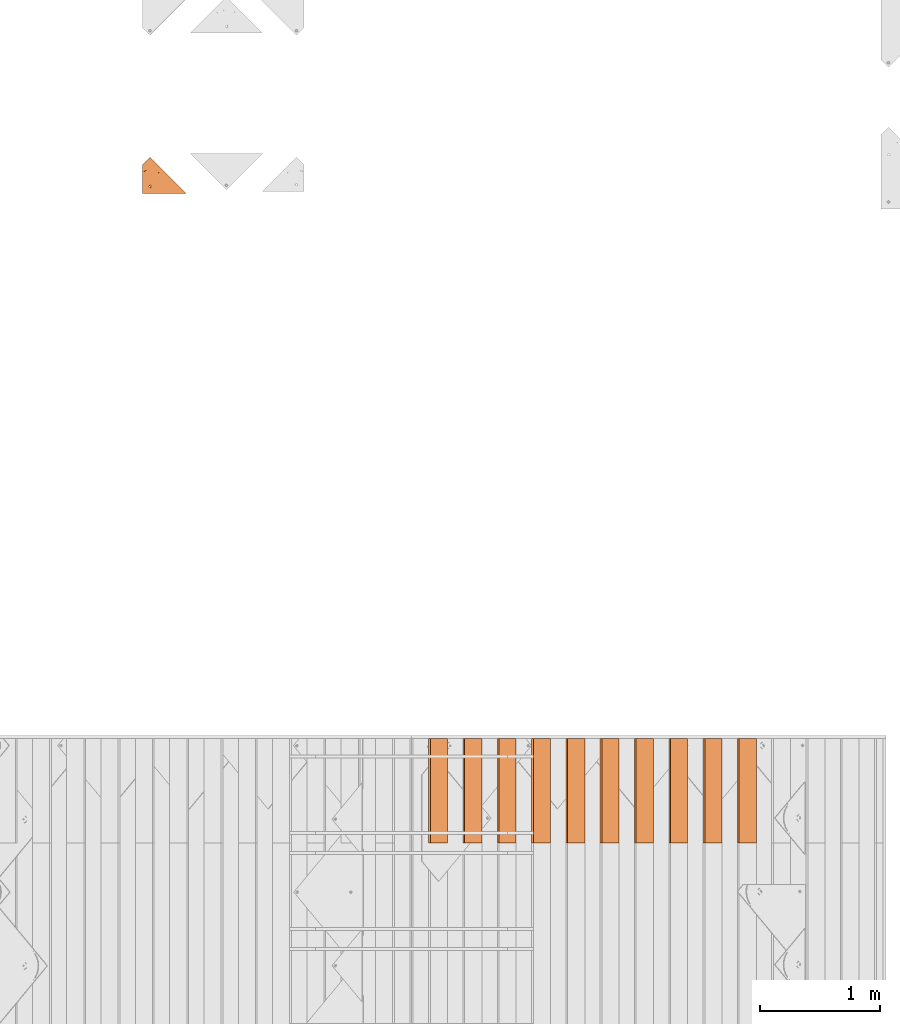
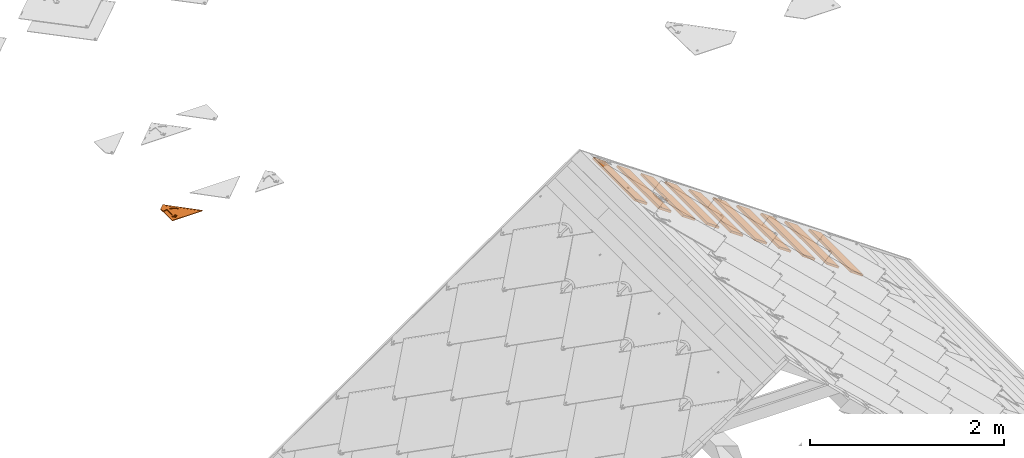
# One storey, part 109 of 133: 11 proxies, 1 element without a shape of its own.
"""IFC2X3 building model written with IfcOpenShell, lengths in millimetres."""

from ifc_helpers import new_model, entity, si_unit, converted_unit, derived_unit, direction, frame, frame_2d, origin, place, context, subcontext, project, spatial, rectangle, extrude, faceted_brep, source, transform, mapped, material, material_list, type_object, type_shapes, element, aggregate, save


model = new_model("IFC2X3")

# Units and contexts
model_context = context("Model", 3, precision=0.01, world=origin(), true_north=direction((6.12303176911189e-17, 1.0)))
body_context = subcontext(model_context, "Body", "Model", "MODEL_VIEW")
ifc_project = project(units=[si_unit("LENGTHUNIT", "METRE", prefix="MILLI"), si_unit("AREAUNIT", "SQUARE_METRE"), si_unit("VOLUMEUNIT", "CUBIC_METRE"), converted_unit("PLANEANGLEUNIT", "DEGREE", entity("IfcRatioMeasure", 0.0174532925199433), si_unit("PLANEANGLEUNIT", "RADIAN"), dimensions=[0, 0, 0, 0, 0, 0, 0]), si_unit("MASSUNIT", "GRAM", prefix="KILO"), derived_unit("MASSDENSITYUNIT", [(si_unit("MASSUNIT", "GRAM", prefix="KILO"), 1), (si_unit("LENGTHUNIT", "METRE"), -3)]), si_unit("TIMEUNIT", "SECOND"), si_unit("FREQUENCYUNIT", "HERTZ"), si_unit("THERMODYNAMICTEMPERATUREUNIT", "DEGREE_CELSIUS"), derived_unit("THERMALTRANSMITTANCEUNIT", [(si_unit("MASSUNIT", "GRAM", prefix="KILO"), 1), (si_unit("THERMODYNAMICTEMPERATUREUNIT", "KELVIN"), -1), (si_unit("TIMEUNIT", "SECOND"), -3)]), derived_unit("VOLUMETRICFLOWRATEUNIT", [(si_unit("LENGTHUNIT", "METRE"), 3), (si_unit("TIMEUNIT", "SECOND"), -1)]), si_unit("ELECTRICCURRENTUNIT", "AMPERE"), si_unit("ELECTRICVOLTAGEUNIT", "VOLT"), si_unit("POWERUNIT", "WATT"), si_unit("FORCEUNIT", "NEWTON", prefix="KILO"), si_unit("ILLUMINANCEUNIT", "LUX"), si_unit("LUMINOUSFLUXUNIT", "LUMEN"), si_unit("LUMINOUSINTENSITYUNIT", "CANDELA"), derived_unit("USERDEFINED", [(si_unit("MASSUNIT", "GRAM", prefix="KILO"), -1), (si_unit("LENGTHUNIT", "METRE"), -2), (si_unit("TIMEUNIT", "SECOND"), 3), (si_unit("LUMINOUSFLUXUNIT", "LUMEN"), 1)]), derived_unit("LINEARVELOCITYUNIT", [(si_unit("LENGTHUNIT", "METRE"), 1), (si_unit("TIMEUNIT", "SECOND"), -1)]), si_unit("PRESSUREUNIT", "PASCAL"), derived_unit("USERDEFINED", [(si_unit("LENGTHUNIT", "METRE"), -2), (si_unit("MASSUNIT", "GRAM", prefix="KILO"), 1), (si_unit("TIMEUNIT", "SECOND"), -2)])], contexts=[model_context])

# Site, building, storey
site_placement = place(None, origin())
site = spatial("IfcSite", under=ifc_project, at=site_placement, Name="Default", CompositionType="ELEMENT")
building_placement = place(site_placement, origin())
building = spatial("IfcBuilding", under=site, at=building_placement, CompositionType="ELEMENT")
storey_placement = place(building_placement, origin())
storey = spatial("IfcBuildingStorey", under=building, at=storey_placement, Name="Level 1", CompositionType="ELEMENT", Elevation=0.0)

# Assembly, proxies
assembly_placement = place(storey_placement, origin())
assembly = element("IfcElementAssembly", 1, at=assembly_placement, inside=storey, Name="Structural Framing Assembly:Roof Construction Assembly", ObjectType="Structural Framing Assembly:Roof Construction Assembly", AssemblyPlace="NOTDEFINED", PredefinedType="USERDEFINED")
ifc_material_1 = material(Name="Wood - Generic - Wood For Showcase")
building_element_proxy_type_1 = type_object("IfcBuildingElementProxyType", Name="Structural Framing 15", PredefinedType="NOTDEFINED", material=ifc_material_1)
shared_shape_1 = source(origin(), body_context, "Body", "SweptSolid", [
    extrude(rectangle(XDim=24.9999999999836, YDim=174.344679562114, at=frame_2d((2.98427949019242e-13, -4.2632564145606e-14), x_axis=(1.0, 0.0))), frame((1285.3560130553, 3055.55080214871, 2760.23940055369), z_axis=(0.0, 1.0, 0.0), x_axis=(0.573576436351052, 0.0, 0.819152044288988)), (0.0, 0.0, 1.0), 870.000000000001),
])
type_shapes(building_element_proxy_type_1, [shared_shape_1])
proxy_1_placement = place(assembly_placement, frame((142.814800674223, 0.0, -100.0)))
proxy_1 = element("IfcBuildingElementProxy", 2, at=proxy_1_placement, type_object=building_element_proxy_type_1, material=ifc_material_1, Name="Structural Framing 164:Structural Framing 15", ObjectType="Structural Framing 164:Structural Framing 15", context=body_context, shape_type="MappedRepresentation", body=[
    mapped(shared_shape_1, transform((0.0, 0.0, 0.0), scale=1.0)),
])
building_element_proxy_type_2 = type_object("IfcBuildingElementProxyType", Name="Structural Framing 15", PredefinedType="NOTDEFINED", material=ifc_material_1)
shared_shape_2 = source(origin(), body_context, "Body", "SweptSolid", [
    extrude(rectangle(XDim=24.9999999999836, YDim=174.344679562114, at=frame_2d((2.98427949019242e-13, -4.2632564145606e-14), x_axis=(1.0, 0.0))), frame((1285.3560130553, 3055.55080214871, 2760.23940055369), z_axis=(0.0, 1.0, 0.0), x_axis=(0.573576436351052, 0.0, 0.819152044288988)), (0.0, 0.0, 1.0), 870.000000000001),
])
type_shapes(building_element_proxy_type_2, [shared_shape_2])
proxy_2_placement = place(assembly_placement, frame((428.444402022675, 0.0, -300.0)))
proxy_2 = element("IfcBuildingElementProxy", 3, at=proxy_2_placement, type_object=building_element_proxy_type_2, material=ifc_material_1, Name="Structural Framing 174:Structural Framing 15", ObjectType="Structural Framing 174:Structural Framing 15", context=body_context, shape_type="MappedRepresentation", body=[
    mapped(shared_shape_2, transform((0.0, 0.0, 0.0), scale=1.0)),
])
building_element_proxy_type_3 = type_object("IfcBuildingElementProxyType", Name="Structural Framing 15", PredefinedType="NOTDEFINED", material=ifc_material_1)
shared_shape_3 = source(origin(), body_context, "Body", "SweptSolid", [
    extrude(rectangle(XDim=24.9999999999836, YDim=174.344679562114, at=frame_2d((2.98427949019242e-13, -4.2632564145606e-14), x_axis=(1.0, 0.0))), frame((1285.3560130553, 3055.55080214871, 2760.23940055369), z_axis=(0.0, 1.0, 0.0), x_axis=(0.573576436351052, 0.0, 0.819152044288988)), (0.0, 0.0, 1.0), 870.000000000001),
])
type_shapes(building_element_proxy_type_3, [shared_shape_3])
proxy_3_placement = place(assembly_placement, frame((714.074003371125, 0.0, -500.0)))
proxy_3 = element("IfcBuildingElementProxy", 4, at=proxy_3_placement, type_object=building_element_proxy_type_3, material=ifc_material_1, Name="Structural Framing 184:Structural Framing 15", ObjectType="Structural Framing 184:Structural Framing 15", context=body_context, shape_type="MappedRepresentation", body=[
    mapped(shared_shape_3, transform((0.0, 0.0, 0.0), scale=1.0)),
])
building_element_proxy_type_4 = type_object("IfcBuildingElementProxyType", Name="Structural Framing 15", PredefinedType="NOTDEFINED", material=ifc_material_1)
shared_shape_4 = source(origin(), body_context, "Body", "SweptSolid", [
    extrude(rectangle(XDim=24.9999999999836, YDim=174.344679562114, at=frame_2d((2.98427949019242e-13, -4.2632564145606e-14), x_axis=(1.0, 0.0))), frame((1285.3560130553, 3055.55080214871, 2760.23940055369), z_axis=(0.0, 1.0, 0.0), x_axis=(0.573576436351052, 0.0, 0.819152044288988)), (0.0, 0.0, 1.0), 870.000000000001),
])
type_shapes(building_element_proxy_type_4, [shared_shape_4])
proxy_4_placement = place(assembly_placement, frame((999.703604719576, 0.0, -700.0)))
proxy_4 = element("IfcBuildingElementProxy", 5, at=proxy_4_placement, type_object=building_element_proxy_type_4, material=ifc_material_1, Name="Structural Framing 194:Structural Framing 15", ObjectType="Structural Framing 194:Structural Framing 15", context=body_context, shape_type="MappedRepresentation", body=[
    mapped(shared_shape_4, transform((0.0, 0.0, 0.0), scale=1.0)),
])
building_element_proxy_type_5 = type_object("IfcBuildingElementProxyType", Name="Structural Framing 15", PredefinedType="NOTDEFINED", material=ifc_material_1)
shared_shape_5 = source(origin(), body_context, "Body", "SweptSolid", [
    extrude(rectangle(XDim=24.9999999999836, YDim=174.344679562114, at=frame_2d((2.98427949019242e-13, -4.2632564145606e-14), x_axis=(1.0, 0.0))), frame((1285.3560130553, 3055.55080214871, 2760.23940055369), z_axis=(0.0, 1.0, 0.0), x_axis=(0.573576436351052, 0.0, 0.819152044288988)), (0.0, 0.0, 1.0), 870.000000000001),
])
type_shapes(building_element_proxy_type_5, [shared_shape_5])
proxy_5_placement = place(assembly_placement, frame((1285.33320606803, 0.0, -900.0)))
proxy_5 = element("IfcBuildingElementProxy", 6, at=proxy_5_placement, type_object=building_element_proxy_type_5, material=ifc_material_1, Name="Structural Framing 204:Structural Framing 15", ObjectType="Structural Framing 204:Structural Framing 15", context=body_context, shape_type="MappedRepresentation", body=[
    mapped(shared_shape_5, transform((0.0, 0.0, 0.0), scale=1.0)),
])
building_element_proxy_type_6 = type_object("IfcBuildingElementProxyType", Name="Structural Framing 15", PredefinedType="NOTDEFINED", material=ifc_material_1)
shared_shape_6 = source(origin(), body_context, "Body", "SweptSolid", [
    extrude(rectangle(XDim=24.9999999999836, YDim=174.344679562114, at=frame_2d((2.98427949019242e-13, -4.2632564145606e-14), x_axis=(1.0, 0.0))), frame((1285.3560130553, 3055.55080214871, 2760.23940055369), z_axis=(0.0, 1.0, 0.0), x_axis=(0.573576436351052, 0.0, 0.819152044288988)), (0.0, 0.0, 1.0), 870.000000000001),
])
type_shapes(building_element_proxy_type_6, [shared_shape_6])
proxy_6_placement = place(assembly_placement, frame((1570.96280741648, 0.0, -1100.0)))
proxy_6 = element("IfcBuildingElementProxy", 7, at=proxy_6_placement, type_object=building_element_proxy_type_6, material=ifc_material_1, Name="Structural Framing 214:Structural Framing 15", ObjectType="Structural Framing 214:Structural Framing 15", context=body_context, shape_type="MappedRepresentation", body=[
    mapped(shared_shape_6, transform((0.0, 0.0, 0.0), scale=1.0)),
])
building_element_proxy_type_7 = type_object("IfcBuildingElementProxyType", Name="Structural Framing 15", PredefinedType="NOTDEFINED", material=ifc_material_1)
shared_shape_7 = source(origin(), body_context, "Body", "SweptSolid", [
    extrude(rectangle(XDim=24.9999999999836, YDim=174.344679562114, at=frame_2d((2.98427949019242e-13, -4.2632564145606e-14), x_axis=(1.0, 0.0))), frame((1285.3560130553, 3055.55080214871, 2760.23940055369), z_axis=(0.0, 1.0, 0.0), x_axis=(0.573576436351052, 0.0, 0.819152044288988)), (0.0, 0.0, 1.0), 870.000000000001),
])
type_shapes(building_element_proxy_type_7, [shared_shape_7])
proxy_7_placement = place(assembly_placement, frame((1856.59240876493, 0.0, -1300.0)))
proxy_7 = element("IfcBuildingElementProxy", 8, at=proxy_7_placement, type_object=building_element_proxy_type_7, material=ifc_material_1, Name="Structural Framing 224:Structural Framing 15", ObjectType="Structural Framing 224:Structural Framing 15", context=body_context, shape_type="MappedRepresentation", body=[
    mapped(shared_shape_7, transform((0.0, 0.0, 0.0), scale=1.0)),
])
building_element_proxy_type_8 = type_object("IfcBuildingElementProxyType", Name="Structural Framing 15", PredefinedType="NOTDEFINED", material=ifc_material_1)
shared_shape_8 = source(origin(), body_context, "Body", "SweptSolid", [
    extrude(rectangle(XDim=24.9999999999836, YDim=174.344679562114, at=frame_2d((2.98427949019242e-13, -4.2632564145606e-14), x_axis=(1.0, 0.0))), frame((1285.3560130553, 3055.55080214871, 2760.23940055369), z_axis=(0.0, 1.0, 0.0), x_axis=(0.573576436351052, 0.0, 0.819152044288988)), (0.0, 0.0, 1.0), 870.000000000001),
])
type_shapes(building_element_proxy_type_8, [shared_shape_8])
proxy_8_placement = place(assembly_placement, frame((2142.22201011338, 0.0, -1500.0)))
proxy_8 = element("IfcBuildingElementProxy", 9, at=proxy_8_placement, type_object=building_element_proxy_type_8, material=ifc_material_1, Name="Structural Framing 234:Structural Framing 15", ObjectType="Structural Framing 234:Structural Framing 15", context=body_context, shape_type="MappedRepresentation", body=[
    mapped(shared_shape_8, transform((0.0, 0.0, 0.0), scale=1.0)),
])
building_element_proxy_type_9 = type_object("IfcBuildingElementProxyType", Name="Structural Framing 15", PredefinedType="NOTDEFINED", material=ifc_material_1)
shared_shape_9 = source(origin(), body_context, "Body", "SweptSolid", [
    extrude(rectangle(XDim=24.9999999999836, YDim=174.344679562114, at=frame_2d((2.98427949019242e-13, -4.2632564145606e-14), x_axis=(1.0, 0.0))), frame((1285.3560130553, 3055.55080214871, 2760.23940055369), z_axis=(0.0, 1.0, 0.0), x_axis=(0.573576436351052, 0.0, 0.819152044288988)), (0.0, 0.0, 1.0), 870.000000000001),
])
type_shapes(building_element_proxy_type_9, [shared_shape_9])
proxy_9_placement = place(assembly_placement, frame((2427.85161146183, 0.0, -1700.0)))
proxy_9 = element("IfcBuildingElementProxy", 10, at=proxy_9_placement, type_object=building_element_proxy_type_9, material=ifc_material_1, Name="Structural Framing 244:Structural Framing 15", ObjectType="Structural Framing 244:Structural Framing 15", context=body_context, shape_type="MappedRepresentation", body=[
    mapped(shared_shape_9, transform((0.0, 0.0, 0.0), scale=1.0)),
])
building_element_proxy_type_10 = type_object("IfcBuildingElementProxyType", Name="Structural Framing 15", PredefinedType="NOTDEFINED", material=ifc_material_1)
shared_shape_10 = source(origin(), body_context, "Body", "SweptSolid", [
    extrude(rectangle(XDim=24.9999999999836, YDim=174.344679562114, at=frame_2d((2.98427949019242e-13, -4.2632564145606e-14), x_axis=(1.0, 0.0))), frame((1285.3560130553, 3055.55080214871, 2760.23940055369), z_axis=(0.0, 1.0, 0.0), x_axis=(0.573576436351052, 0.0, 0.819152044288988)), (0.0, 0.0, 1.0), 870.000000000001),
])
type_shapes(building_element_proxy_type_10, [shared_shape_10])
proxy_10_placement = place(assembly_placement, frame((2713.48121281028, 0.0, -1900.0)))
proxy_10 = element("IfcBuildingElementProxy", 11, at=proxy_10_placement, type_object=building_element_proxy_type_10, material=ifc_material_1, Name="Structural Framing 254:Structural Framing 15", ObjectType="Structural Framing 254:Structural Framing 15", context=body_context, shape_type="MappedRepresentation", body=[
    mapped(shared_shape_10, transform((0.0, 0.0, 0.0), scale=1.0)),
])
aggregate(assembly, [proxy_1, proxy_2, proxy_3, proxy_4, proxy_5, proxy_6, proxy_7, proxy_8, proxy_9, proxy_10])

# Proxy
ifc_material_2 = material(Name="Rubber - Sunstyle - Black")
ifc_material_3 = material(Name="Glass - Sunstyle - Tainted Black")
ifc_material_list_1 = material_list([ifc_material_2, ifc_material_3])
ifc_material_list_2 = material_list([ifc_material_2, ifc_material_3])
building_element_proxy_type_11 = type_object("IfcBuildingElementProxyType", Name="Corner Bottom Small Left - Black", PredefinedType="NOTDEFINED", material=ifc_material_list_2)
shared_shape_11 = source(origin(), body_context, "Body", "Brep", [
    faceted_brep([(330.847757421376, 18.4932261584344, 12.2894055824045), (339.332443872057, 26.9779126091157, 12.1473081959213), (339.332443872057, 27.0030303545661, 13.6470978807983), (330.847757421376, 18.5183439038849, 13.7891952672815), (61.6993486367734, 287.566165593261, 7.7831033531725), (10.0799586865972, 235.961249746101, 8.64735729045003), (1.59527223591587, 244.445936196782, 8.50525990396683), (61.6993486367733, 304.533159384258, 7.49894842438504), (61.6993486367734, 304.558277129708, 8.9987381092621), (1.59527223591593, 244.471053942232, 10.0050495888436), (10.0799586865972, 235.986367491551, 10.147146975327), (61.6993486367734, 287.591283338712, 9.2828930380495)], [[[0, 1, 2, 3]], [[1, 0, 4, 5, 6, 7]], [[2, 1, 7, 8]], [[3, 2, 8, 9, 10, 11]], [[0, 3, 11, 4]], [[5, 10, 9, 6]], [[8, 7, 6, 9]], [[4, 11, 10, 5]]]),
    faceted_brep([(61.6990261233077, 46.946835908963, 21.8142807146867), (61.6990261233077, 51.4462045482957, 21.7389274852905), (53.0953219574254, 50.5101071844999, 21.7546047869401), (70.3027302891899, 50.5101071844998, 21.7546047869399), (68.3392547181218, 55.2794047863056, 21.6747309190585), (73.8665012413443, 59.1126050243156, 21.6105343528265), (68.3392547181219, 62.9458052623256, 21.5463377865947), (70.30273028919, 67.7151028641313, 21.4664639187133), (61.6990261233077, 66.7790055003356, 21.4821412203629), (61.6990261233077, 71.2783741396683, 21.4067879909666), (53.0953219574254, 67.7151028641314, 21.4664639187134), (55.0587975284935, 62.9458052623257, 21.5463377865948), (49.5315510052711, 59.1126050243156, 21.6105343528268), (55.0587975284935, 55.2794047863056, 21.6747309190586), (55.0587978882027, 62.6778824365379, 5.54858115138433), (61.6990261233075, 66.5110824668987, 5.48438458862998), (55.0587978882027, 55.0114823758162, 5.6769742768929), (61.6990261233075, 51.1782823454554, 5.74117083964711), (68.3392543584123, 55.0114823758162, 5.67697427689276), (68.3392543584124, 62.6778824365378, 5.5485811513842), (53.0953219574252, 50.2421845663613, 5.75684814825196), (61.6990261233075, 46.6789132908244, 5.81652407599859), (49.5315510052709, 58.844682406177, 5.61277771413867), (53.0953219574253, 67.4471802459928, 5.4687072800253), (61.6990261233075, 71.0104515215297, 5.4090313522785), (70.3027302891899, 67.4471802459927, 5.46870728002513), (73.8665012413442, 58.844682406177, 5.61277771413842), (70.3027302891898, 50.2421845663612, 5.75684814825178)], [[[0, 1, 2]], [[1, 0, 3]], [[3, 4, 1]], [[4, 3, 5]], [[6, 4, 5]], [[5, 7, 6]], [[7, 8, 6]], [[8, 7, 9]], [[8, 9, 10]], [[10, 11, 8]], [[12, 11, 10]], [[2, 13, 12]], [[12, 13, 11]], [[13, 2, 1]], [[8, 11, 14, 15]], [[11, 13, 16, 14]], [[13, 1, 17, 16]], [[1, 4, 18, 17]], [[4, 6, 19, 18]], [[6, 8, 15, 19]], [[20, 17, 21]], [[17, 20, 16]], [[22, 16, 20]], [[14, 16, 22]], [[23, 14, 22]], [[15, 14, 23]], [[23, 24, 15]], [[24, 25, 15]], [[19, 15, 25]], [[19, 25, 26]], [[26, 18, 19]], [[26, 27, 18]], [[17, 18, 27]], [[27, 21, 17]], [[24, 23, 10, 9]], [[10, 23, 22, 12]], [[20, 21, 0, 2]], [[20, 2, 12, 22]], [[21, 27, 3, 0]], [[3, 27, 26, 5]], [[25, 24, 9, 7]], [[25, 7, 5, 26]]]),
    faceted_brep([(1.59527223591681, 244.445936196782, 8.50525990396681), (58.5931975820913, 70.7020897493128, 11.4150370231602), (61.6990261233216, 71.1109225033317, 11.4081900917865), (55.6990261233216, 69.5034527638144, 11.4351112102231), (64.8048546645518, 70.7020897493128, 11.4150370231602), (53.213744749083, 67.596696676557, 11.4670446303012), (51.3067212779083, 65.1117637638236, 11.5086610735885), (1.5952722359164, 0.125588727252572, 12.5970178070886), (67.6990261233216, 69.5034527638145, 11.4351112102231), (61.6993486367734, 304.533159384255, 7.49894842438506), (50.1079162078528, 62.2179980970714, 11.5571244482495), (49.6990261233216, 59.1126050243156, 11.6091320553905), (50.1079162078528, 56.0072119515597, 11.6611396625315), (51.3067212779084, 53.1134462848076, 11.7096030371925), (53.2137447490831, 50.6285133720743, 11.7512194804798), (55.6990261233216, 48.7217572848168, 11.7831529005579), (58.5931975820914, 47.5231202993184, 11.8032270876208), (61.6990261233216, 47.1142875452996, 11.8100740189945), (64.8048546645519, 47.5231202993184, 11.8032270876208), (67.6990261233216, 48.7217572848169, 11.7831529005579), (366.192299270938, 0.125588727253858, 12.5970178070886), (72.0913309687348, 65.1117637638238, 11.5086610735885), (73.2901360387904, 62.2179980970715, 11.5571244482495), (73.6990261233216, 59.1126050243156, 11.6091320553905), (70.1843074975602, 50.6285133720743, 11.7512194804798), (72.0913309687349, 53.1134462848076, 11.7096030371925), (73.2901360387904, 56.0072119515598, 11.6611396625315), (70.1843074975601, 67.596696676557, 11.4670446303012), (1.5952722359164, 0.0, 5.09806938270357), (55.6990261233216, 48.5961685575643, 4.2842044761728), (58.5931975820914, 47.3975315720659, 4.30427866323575), (53.2137447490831, 50.5029246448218, 4.25227105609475), (61.6990261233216, 46.9886988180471, 4.3111255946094), (51.3067212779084, 52.9878575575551, 4.21065461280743), (50.1079162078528, 55.8816232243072, 4.16219123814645), (49.6990261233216, 58.9870162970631, 4.11018363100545), (50.1079162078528, 62.0924093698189, 4.05817602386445), (64.8048546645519, 47.3975315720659, 4.30427866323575), (67.6990261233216, 48.5961685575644, 4.2842044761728), (366.192299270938, 0.0, 5.09806938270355), (51.3067212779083, 64.9861750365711, 4.00971264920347), (1.59527223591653, 244.320347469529, 1.00631147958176), (53.213744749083, 67.4711079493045, 3.96809620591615), (55.6990261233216, 69.3778640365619, 3.93616278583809), (58.5931975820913, 70.5765010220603, 3.91608859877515), (61.6990261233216, 70.9853337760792, 3.90924166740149), (64.8048546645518, 70.5765010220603, 3.91608859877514), (67.6990261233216, 69.377864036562, 3.93616278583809), (61.6993486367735, 304.407570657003, 0.0), (72.0913309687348, 64.9861750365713, 4.00971264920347), (70.1843074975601, 67.4711079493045, 3.96809620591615), (70.1843074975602, 50.5029246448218, 4.25227105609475), (72.0913309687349, 52.9878575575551, 4.21065461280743), (73.2901360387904, 55.8816232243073, 4.16219123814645), (73.6990261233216, 58.9870162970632, 4.11018363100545), (73.2901360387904, 62.092409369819, 4.05817602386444)], [[[0, 1, 2]], [[1, 0, 3]], [[0, 2, 4]], [[5, 3, 0]], [[6, 5, 0]], [[6, 0, 7]], [[8, 0, 4]], [[0, 8, 9]], [[7, 10, 6]], [[11, 10, 7]], [[12, 11, 7]], [[13, 12, 7]], [[7, 14, 13]], [[14, 7, 15]], [[16, 15, 7]], [[7, 17, 16]], [[17, 7, 18]], [[19, 18, 7]], [[20, 19, 7]], [[9, 21, 20]], [[20, 21, 22]], [[20, 22, 23]], [[19, 20, 24]], [[25, 24, 20]], [[26, 25, 20]], [[26, 20, 23]], [[9, 8, 27]], [[27, 21, 9]], [[28, 29, 30]], [[29, 28, 31]], [[28, 30, 32]], [[33, 31, 28]], [[34, 33, 28]], [[35, 34, 28]], [[28, 36, 35]], [[37, 28, 32]], [[37, 38, 28]], [[28, 38, 39]], [[36, 28, 40]], [[28, 41, 40]], [[42, 40, 41]], [[41, 43, 42]], [[43, 41, 44]], [[45, 44, 41]], [[41, 46, 45]], [[41, 47, 46]], [[47, 41, 48]], [[49, 48, 39]], [[50, 47, 48]], [[48, 49, 50]], [[38, 51, 39]], [[51, 52, 39]], [[52, 53, 39]], [[39, 53, 54]], [[55, 39, 54]], [[49, 39, 55]], [[11, 35, 36, 10]], [[10, 36, 40, 6]], [[3, 5, 42, 43]], [[40, 42, 5, 6]], [[1, 3, 43, 44]], [[45, 2, 1, 44]], [[4, 46, 47, 8]], [[8, 47, 50, 27]], [[22, 21, 49, 55]], [[50, 49, 21, 27]], [[23, 22, 55, 54]], [[4, 2, 45, 46]], [[23, 54, 53, 26]], [[26, 53, 52, 25]], [[19, 24, 51, 38]], [[52, 51, 24, 25]], [[18, 19, 38, 37]], [[32, 17, 18, 37]], [[16, 30, 29, 15]], [[15, 29, 31, 14]], [[12, 13, 33, 34]], [[31, 33, 13, 14]], [[11, 12, 34, 35]], [[16, 17, 32, 30]], [[0, 9, 48, 41]], [[7, 0, 41, 28]], [[20, 7, 28, 39]], [[9, 20, 39, 48]]]),
    faceted_brep([(1.59527223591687, 209.239382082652, 19.0962843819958), (1.59527223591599, 182.513149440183, 19.5438822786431), (24.4390403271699, 190.969673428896, 19.4022565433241), (34.6448586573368, 218.551914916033, 18.9403226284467), (48.3990261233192, 195.36105911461, 19.3287117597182), (68.9162632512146, 220.671424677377, 18.9048261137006), (74.999026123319, 195.361059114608, 19.3287117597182), (74.99902612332, 85.4841763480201, 21.1688761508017), (48.3990261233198, 85.4841763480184, 21.1688761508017), (61.6990261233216, 71.2783741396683, 21.4067879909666), (58.5931975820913, 70.8695413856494, 21.4136349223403), (55.6990261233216, 69.670904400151, 21.4337091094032), (42.9949199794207, 81.9461281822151, 21.2281296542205), (53.213744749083, 67.7641483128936, 21.4656425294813), (38.4943757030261, 77.3131226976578, 21.3057209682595), (51.3067212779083, 65.2792154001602, 21.5072589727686), (35.1148065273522, 71.8089720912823, 21.397901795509), (50.1079162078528, 62.385449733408, 21.5557223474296), (33.0194733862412, 65.6995720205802, 21.5002190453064), (49.6990261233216, 59.2800566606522, 21.6077299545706), (32.3095980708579, 59.2800566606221, 21.6077299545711), (50.1079162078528, 56.1746635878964, 21.6597375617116), (51.3067212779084, 53.2808979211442, 21.7082009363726), (53.2137447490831, 50.7959650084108, 21.7498173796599), (61.6990261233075, 29.8947493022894, 22.0998607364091), (55.6990261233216, 48.8892089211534, 21.7817507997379), (58.5931975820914, 47.690571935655, 21.8018249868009), (61.6990261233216, 47.2817391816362, 21.8086719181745), (64.8048546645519, 47.690571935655, 21.8018249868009), (67.6990261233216, 48.8892089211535, 21.7817507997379), (70.1843074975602, 50.7959650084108, 21.7498173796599), (91.0884541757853, 59.2800566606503, 21.6077299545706), (72.0913309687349, 53.2808979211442, 21.7082009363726), (73.2901360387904, 56.1746635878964, 21.6597375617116), (73.6990261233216, 59.2800566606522, 21.6077299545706), (90.3785788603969, 65.699572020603, 21.500219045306), (73.2901360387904, 62.3854497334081, 21.5557223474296), (88.2832457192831, 71.8089720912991, 21.3979017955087), (72.0913309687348, 65.2792154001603, 21.5072589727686), (84.9036765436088, 77.3131226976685, 21.3057209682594), (70.1843074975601, 67.7641483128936, 21.4656425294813), (80.4031322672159, 81.9461281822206, 21.2281296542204), (67.6990261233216, 69.6709044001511, 21.4337091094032), (64.8048546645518, 70.8695413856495, 21.4136349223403), (102.861723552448, 215.50219023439, 18.9913979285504), (100.468768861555, 190.546178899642, 19.4093490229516), (134.948197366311, 203.277664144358, 19.1961283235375), (124.623359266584, 181.142545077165, 19.5668364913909), (146.643422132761, 167.469148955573, 19.7958318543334), (163.72659789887, 184.549929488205, 19.5097712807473), (51.3067212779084, 53.1134462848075, 11.7096030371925), (32.3095980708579, 59.1126050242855, 11.609132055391), (50.1079162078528, 56.0072119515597, 11.6611396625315), (53.2137447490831, 50.6285133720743, 11.7512194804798), (61.6990261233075, 29.7272976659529, 12.1012628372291), (55.6990261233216, 48.7217572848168, 11.7831529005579), (58.5931975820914, 47.5231202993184, 11.8032270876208), (61.6990261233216, 47.1142875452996, 11.8100740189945), (64.8048546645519, 47.5231202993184, 11.8032270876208), (67.6990261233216, 48.7217572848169, 11.7831529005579), (70.1843074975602, 50.6285133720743, 11.7512194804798), (91.0884541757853, 59.1126050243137, 11.6091320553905), (72.0913309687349, 53.1134462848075, 11.7096030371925), (73.2901360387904, 56.0072119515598, 11.6611396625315), (73.6990261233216, 59.1126050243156, 11.6091320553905), (90.3785788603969, 65.5321203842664, 11.5016211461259), (73.2901360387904, 62.2179980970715, 11.5571244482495), (88.2832457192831, 71.6415204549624, 11.3993038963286), (72.0913309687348, 65.1117637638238, 11.5086610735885), (84.9036765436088, 77.1456710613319, 11.3071230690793), (70.1843074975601, 67.596696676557, 11.4670446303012), (80.4031322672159, 81.778676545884, 11.2295317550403), (67.6990261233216, 69.5034527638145, 11.4351112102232), (74.99902612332, 85.3167247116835, 11.1702782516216), (64.8048546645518, 70.7020897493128, 11.4150370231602), (61.6990261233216, 71.1109225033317, 11.4081900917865), (48.39902612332, 85.3167247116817, 11.1702782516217), (58.5931975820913, 70.7020897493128, 11.4150370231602), (55.6990261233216, 69.5034527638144, 11.4351112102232), (42.9949199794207, 81.7786765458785, 11.2295317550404), (53.213744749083, 67.596696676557, 11.4670446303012), (38.4943757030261, 77.1456710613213, 11.3071230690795), (51.3067212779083, 65.1117637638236, 11.5086610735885), (35.1148065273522, 71.6415204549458, 11.3993038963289), (50.1079162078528, 62.2179980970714, 11.5571244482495), (33.0194733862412, 65.5321203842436, 11.5016211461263), (49.6990261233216, 59.1126050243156, 11.6091320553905), (48.3990261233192, 195.193607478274, 9.33011386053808), (74.99902612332, 195.193607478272, 9.33011386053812), (68.9162632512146, 220.50397304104, 8.90622821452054), (34.6448586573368, 218.384463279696, 8.94172472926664), (24.4390403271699, 190.802221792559, 9.40365864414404), (1.59527223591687, 209.071930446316, 9.09768648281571), (1.59527223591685, 182.345697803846, 9.545284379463), (102.861723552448, 215.334738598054, 8.99280002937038), (100.468768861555, 190.378727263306, 9.4107511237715), (134.948197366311, 203.110212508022, 9.19753042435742), (124.623359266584, 180.975093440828, 9.5682385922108), (146.643422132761, 167.301697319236, 9.79723395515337), (163.72659789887, 184.382477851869, 9.51117338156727), (169.978999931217, 179.020830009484, 9.60096764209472), (175.949995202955, 173.347554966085, 9.69598088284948), (172.968069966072, 140.980740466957, 10.2380444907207), (190.645739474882, 158.655931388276, 9.94202902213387), (190.645739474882, 158.69779429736, 12.4416784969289), (172.968069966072, 141.022603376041, 12.7376939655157), (163.72659789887, 184.424340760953, 12.0108228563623), (146.643422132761, 167.34356022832, 12.2968834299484), (175.949995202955, 173.38941787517, 12.1956303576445), (169.978999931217, 179.062692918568, 12.1006171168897)], [[[0, 1, 2]], [[0, 2, 3]], [[2, 4, 3]], [[3, 4, 5]], [[5, 4, 6]], [[7, 6, 4]], [[7, 4, 8]], [[9, 7, 8]], [[9, 8, 10]], [[10, 8, 11]], [[12, 11, 8]], [[11, 12, 13]], [[14, 13, 12]], [[13, 14, 15]], [[15, 14, 16]], [[17, 15, 16]], [[18, 17, 16]], [[18, 19, 17]], [[19, 18, 20]], [[20, 21, 19]], [[20, 22, 21]], [[22, 20, 23]], [[23, 20, 24]], [[24, 25, 23]], [[26, 25, 24]], [[24, 27, 26]], [[28, 27, 24]], [[28, 24, 29]], [[30, 29, 24]], [[30, 24, 31]], [[31, 32, 30]], [[33, 32, 31]], [[31, 34, 33]], [[35, 34, 31]], [[34, 35, 36]], [[36, 35, 37]], [[36, 37, 38]], [[38, 37, 39]], [[39, 40, 38]], [[39, 41, 40]], [[7, 42, 41]], [[40, 41, 42]], [[42, 7, 43]], [[43, 7, 9]], [[44, 5, 6]], [[44, 6, 45]], [[45, 46, 44]], [[46, 45, 47]], [[47, 48, 46]], [[49, 46, 48]], [[50, 51, 52]], [[51, 50, 53]], [[51, 53, 54]], [[54, 53, 55]], [[55, 56, 54]], [[57, 54, 56]], [[54, 57, 58]], [[54, 58, 59]], [[59, 60, 54]], [[54, 60, 61]], [[61, 60, 62]], [[62, 63, 61]], [[64, 61, 63]], [[61, 64, 65]], [[66, 65, 64]], [[67, 65, 66]], [[67, 66, 68]], [[67, 68, 69]], [[69, 68, 70]], [[71, 69, 70]], [[70, 72, 71]], [[73, 71, 72]], [[74, 73, 72]], [[73, 74, 75]], [[76, 73, 75]], [[75, 77, 76]], [[76, 77, 78]], [[79, 76, 78]], [[78, 80, 79]], [[81, 79, 80]], [[81, 80, 82]], [[82, 83, 81]], [[82, 84, 83]], [[84, 85, 83]], [[86, 85, 84]], [[52, 51, 86]], [[85, 86, 51]], [[87, 73, 76]], [[88, 73, 87]], [[88, 87, 89]], [[90, 89, 87]], [[87, 91, 90]], [[91, 92, 90]], [[93, 92, 91]], [[88, 89, 94]], [[88, 94, 95]], [[96, 95, 94]], [[96, 97, 95]], [[97, 96, 98]], [[96, 99, 98]], [[98, 99, 100]], [[98, 100, 101]], [[101, 102, 98]], [[102, 101, 103]], [[8, 4, 87, 76]], [[12, 8, 76, 79]], [[14, 12, 79, 81]], [[81, 83, 16, 14]], [[18, 16, 83, 85]], [[20, 18, 85, 51]], [[24, 20, 51, 54]], [[31, 24, 54, 61]], [[104, 105, 102, 103]], [[35, 31, 61, 65]], [[37, 35, 65, 67]], [[67, 69, 39, 37]], [[41, 39, 69, 71]], [[7, 41, 71, 73]], [[6, 7, 73, 88]], [[106, 99, 96, 46, 49]], [[46, 96, 94, 44]], [[5, 44, 94, 89]], [[3, 5, 89, 90]], [[92, 0, 3, 90]], [[19, 86, 84, 17]], [[17, 84, 82, 15]], [[11, 13, 80, 78]], [[82, 80, 13, 15]], [[10, 11, 78, 77]], [[75, 9, 10, 77]], [[43, 74, 72, 42]], [[42, 72, 70, 40]], [[36, 38, 68, 66]], [[70, 68, 38, 40]], [[34, 36, 66, 64]], [[43, 9, 75, 74]], [[34, 64, 63, 33]], [[33, 63, 62, 32]], [[29, 30, 60, 59]], [[62, 60, 30, 32]], [[28, 29, 59, 58]], [[57, 27, 28, 58]], [[26, 56, 55, 25]], [[25, 55, 53, 23]], [[21, 22, 50, 52]], [[53, 50, 22, 23]], [[19, 21, 52, 86]], [[26, 27, 57, 56]], [[49, 48, 107, 106]], [[93, 91, 2, 1]], [[87, 4, 2, 91]], [[88, 95, 45, 6]], [[95, 97, 47, 45]], [[107, 48, 47, 97, 98]], [[1, 0, 92, 93]], [[104, 108, 109, 106, 107, 105]], [[108, 104, 103, 101]], [[108, 101, 100, 109]], [[100, 99, 106, 109]], [[105, 107, 98, 102]]]),
])
type_shapes(building_element_proxy_type_11, [shared_shape_11])
proxy_11_placement = place(storey_placement, frame((-1032.71055926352, 8459.93507104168, -1.49476068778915)))
element("IfcBuildingElementProxy", 12, at=proxy_11_placement, inside=storey, type_object=building_element_proxy_type_11, material=ifc_material_list_1, Name="Roofing_Panels_SunStyle_Tile_Corner-Bottom-Small-Left:Corner Bottom Small Left - Black", ObjectType="Roofing_Panels_SunStyle_Tile_Corner-Bottom-Small-Left:Corner Bottom Small Left - Black", context=body_context, shape_type="MappedRepresentation", body=[
    mapped(shared_shape_11, transform((0.0, 0.0, 0.0), scale=1.0)),
])

save(model, "model.ifc")
